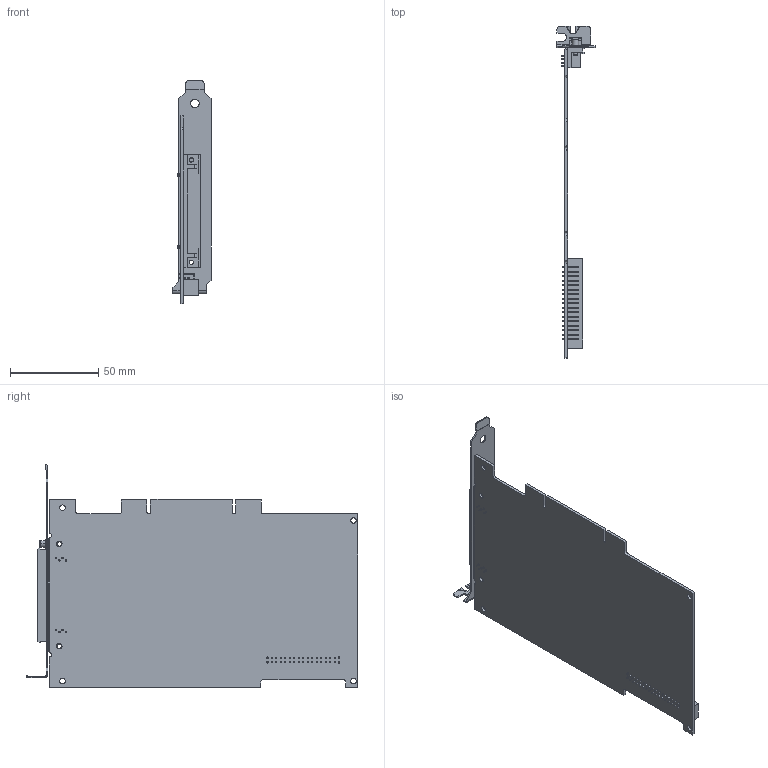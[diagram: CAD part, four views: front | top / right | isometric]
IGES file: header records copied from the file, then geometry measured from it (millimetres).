
Start section:  PTC IGES file: cu_pci-6601_6602.igs
Global section: file name: cu_pci-6601_6602.igs; native system: Pro/ENGINEER by Parametric Technology Corporation; preprocessor: 2010230; author: dkendric; organization: Unknown; date: 20110818.134634; units: inch
Bounding box: 21.59 x 187.77 x 126.21 mm (x, y, z)
Surface area: 46042.3 mm2 (no closed solid volume)
Topology: 0 solids, 0 shells, 852 faces, 4664 edges, 4664 vertices
Faces by surface type: bspline 673, revolution 179
